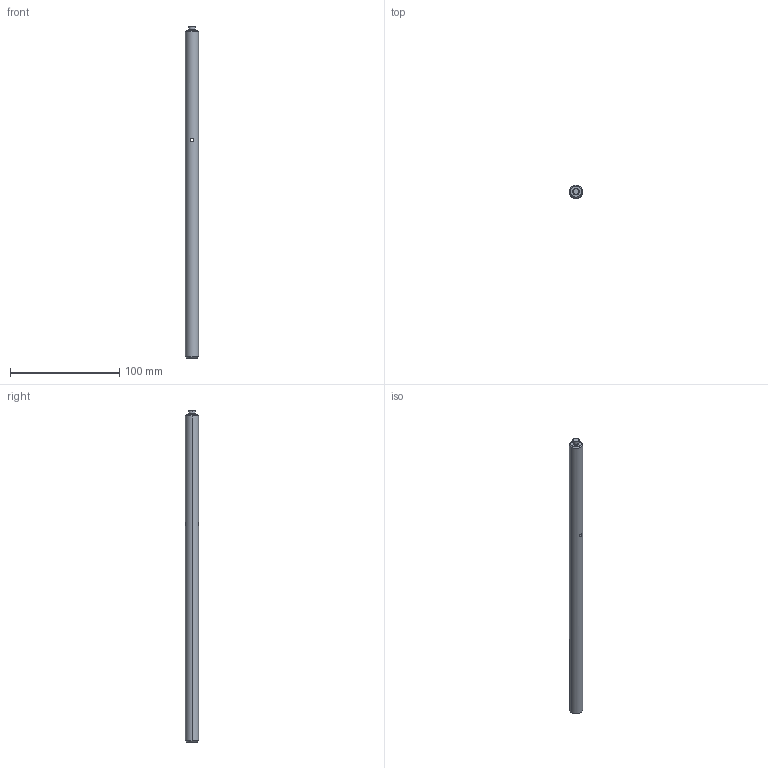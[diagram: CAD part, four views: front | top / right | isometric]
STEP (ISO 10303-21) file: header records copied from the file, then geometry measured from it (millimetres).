
FILE_DESCRIPTION (( 'STEP AP203' ), '1' );
FILE_NAME ('PHSP12-7.step', '2019-05-09T09:08:25', ( '' ), ( '' ), 'SwSTEP 2.0', 'SolidWorks 2016', '' );
FILE_SCHEMA (( 'CONFIG_CONTROL_DESIGN' ));
Length unit declared in the file: millimetre
Products named in the file (1): PHSP12-7
Bounding box: 12 x 12 x 304.5 mm (x, y, z)
Volume: 33593.3 mm3; surface area: 11939.9 mm2
Topology: 1 solids, 1 shells, 22 faces, 46 edges, 27 vertices
Faces by surface type: cylinder 10, cone 8, plane 4
Entity records: 751 total; most frequent: CARTESIAN_POINT 198, DIRECTION 108, ORIENTED_EDGE 88, AXIS2_PLACEMENT_3D 45, EDGE_CURVE 44, VERTEX_POINT 27, EDGE_LOOP 27, ADVANCED_FACE 22
